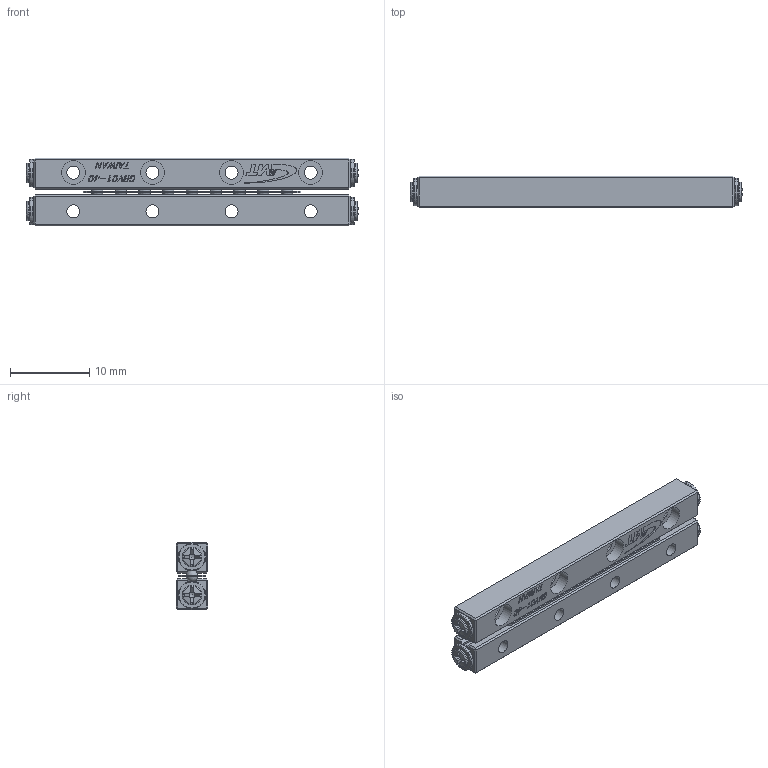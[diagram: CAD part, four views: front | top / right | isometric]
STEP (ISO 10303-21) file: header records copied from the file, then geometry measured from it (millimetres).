
FILE_DESCRIPTION (( 'STEP AP203' ), '1' );
FILE_NAME ('GBV01-40.STEP', '2023-08-04T02:42:21', ( '' ), ( '' ), 'SwSTEP 2.0', 'SolidWorks 2019', '' );
FILE_SCHEMA (( 'CONFIG_CONTROL_DESIGN' ));
Length unit declared in the file: millimetre
Products named in the file (3): GBV01-40-模糊化軌道; GBV01-40; GBV01-40-模糊化保持器組
Assembly tree (3 placements, depth 2):
  GBV01-40
    GBV01-40-模糊化軌道  x2
    GBV01-40-模糊化保持器組
Bounding box: 41.96 x 4 x 8.5 mm (x, y, z)
Volume: 1099.5 mm3; surface area: 1889.7 mm2
Topology: 3 solids, 7 shells, 1070 faces, 2816 edges, 1838 vertices
Faces by surface type: plane 754, bspline 212, cone 40, cylinder 30, sphere 22, torus 12
Full cylindrical faces by diameter (mm): 1.3 x4, 1.65 x8, 2.5 x4, 3 x8, 3.5 x4
Entity records: 18366 total; most frequent: CARTESIAN_POINT 5416, ORIENTED_EDGE 2790, DIRECTION 2169, EDGE_CURVE 1395, VECTOR 1027, LINE 1027, VERTEX_POINT 926, EDGE_LOOP 629
